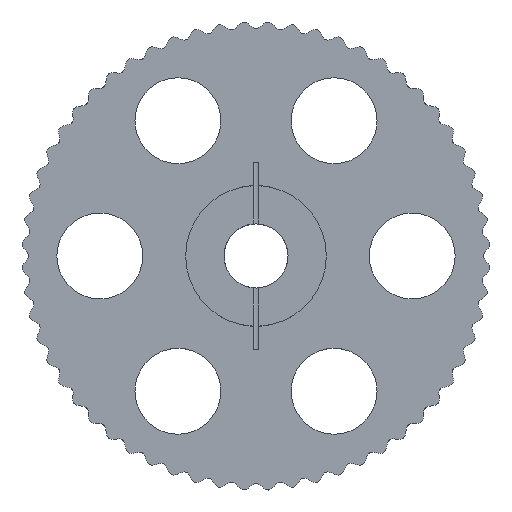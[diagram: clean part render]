
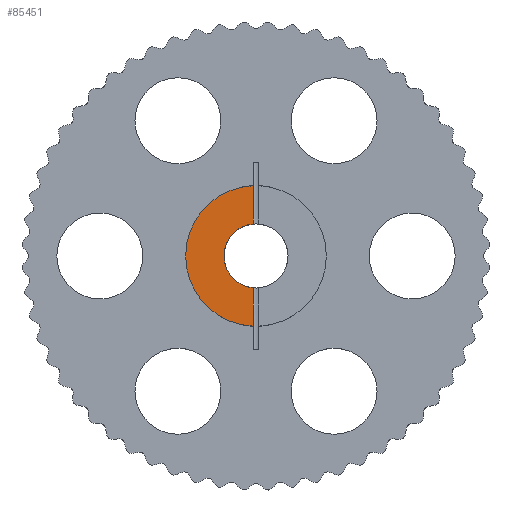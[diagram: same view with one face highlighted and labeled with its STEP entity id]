
A CAD part, top view. The second image highlights one B-rep face of the part: STEP entity #85451.
In plain terms, the highlighted planar face has unit normal (0, 0, 1).
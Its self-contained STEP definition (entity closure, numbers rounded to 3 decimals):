
#84559 = CYLINDRICAL_SURFACE('',#84560,1.25);
#84560 = AXIS2_PLACEMENT_3D('',#84561,#84562,#84563);
#84561 = CARTESIAN_POINT('',(0.,12.,2.7));
#84562 = DIRECTION('',(0.,-1.,0.));
#84563 = DIRECTION('',(1.,0.,0.));
#84637 = CYLINDRICAL_SURFACE('',#84638,9.);
#84638 = AXIS2_PLACEMENT_3D('',#84639,#84640,#84641);
#84639 = CARTESIAN_POINT('',(0.,0.,1.5));
#84640 = DIRECTION('',(0.,0.,1.));
#84641 = DIRECTION('',(1.,0.,-0.));
#84665 = CYLINDRICAL_SURFACE('',#84666,1.25);
#84666 = AXIS2_PLACEMENT_3D('',#84667,#84668,#84669);
#84667 = CARTESIAN_POINT('',(0.,12.,2.7));
#84668 = DIRECTION('',(0.,-1.,0.));
#84669 = DIRECTION('',(1.,0.,0.));
#85076 = VERTEX_POINT('',#85077);
#85077 = CARTESIAN_POINT('',(-0.35,4.085,3.9));
#85232 = CYLINDRICAL_SURFACE('',#85233,4.1);
#85233 = AXIS2_PLACEMENT_3D('',#85234,#85235,#85236);
#85234 = CARTESIAN_POINT('',(0.,0.,-5.));
#85235 = DIRECTION('',(0.,0.,1.));
#85236 = DIRECTION('',(1.,0.,-0.));
#85332 = EDGE_CURVE('',#85333,#85076,#85335,.T.);
#85333 = VERTEX_POINT('',#85334);
#85334 = CARTESIAN_POINT('',(-0.35,8.993,3.9));
#85335 = SURFACE_CURVE('',#85336,(#85340,#85346),.PCURVE_S1.);
#85336 = LINE('',#85337,#85338);
#85337 = CARTESIAN_POINT('',(-0.35,12.,3.9));
#85338 = VECTOR('',#85339,1.);
#85339 = DIRECTION('',(0.,-1.,0.));
#85340 = PCURVE('',#84665,#85341);
#85341 = DEFINITIONAL_REPRESENTATION('',(#85342),#85345);
#85342 = B_SPLINE_CURVE_WITH_KNOTS('',1,(#85343,#85344),.UNSPECIFIED.,
  .F.,.F.,(2,2),(3.007,7.915),
  .PIECEWISE_BEZIER_KNOTS.);
#85343 = CARTESIAN_POINT('',(1.855,3.007));
#85344 = CARTESIAN_POINT('',(1.855,7.915));
#85345 = ( GEOMETRIC_REPRESENTATION_CONTEXT(2) 
PARAMETRIC_REPRESENTATION_CONTEXT() REPRESENTATION_CONTEXT('2D SPACE',''
  ) );
#85346 = PCURVE('',#85347,#85352);
#85347 = PLANE('',#85348);
#85348 = AXIS2_PLACEMENT_3D('',#85349,#85350,#85351);
#85349 = CARTESIAN_POINT('',(0.,0.,3.9));
#85350 = DIRECTION('',(0.,0.,1.));
#85351 = DIRECTION('',(1.,0.,-0.));
#85352 = DEFINITIONAL_REPRESENTATION('',(#85353),#85357);
#85353 = LINE('',#85354,#85355);
#85354 = CARTESIAN_POINT('',(-0.35,12.));
#85355 = VECTOR('',#85356,1.);
#85356 = DIRECTION('',(0.,-1.));
#85357 = ( GEOMETRIC_REPRESENTATION_CONTEXT(2) 
PARAMETRIC_REPRESENTATION_CONTEXT() REPRESENTATION_CONTEXT('2D SPACE',''
  ) );
#85451 = ADVANCED_FACE('',(#85452),#85347,.T.);
#85452 = FACE_BOUND('',#85453,.T.);
#85453 = EDGE_LOOP('',(#85454,#85455,#85479,#85501));
#85454 = ORIENTED_EDGE('',*,*,#85332,.F.);
#85455 = ORIENTED_EDGE('',*,*,#85456,.T.);
#85456 = EDGE_CURVE('',#85333,#85457,#85459,.T.);
#85457 = VERTEX_POINT('',#85458);
#85458 = CARTESIAN_POINT('',(-0.35,-8.993,3.9));
#85459 = SURFACE_CURVE('',#85460,(#85465,#85472),.PCURVE_S1.);
#85460 = CIRCLE('',#85461,9.);
#85461 = AXIS2_PLACEMENT_3D('',#85462,#85463,#85464);
#85462 = CARTESIAN_POINT('',(0.,0.,3.9));
#85463 = DIRECTION('',(0.,0.,1.));
#85464 = DIRECTION('',(1.,0.,-0.));
#85465 = PCURVE('',#85347,#85466);
#85466 = DEFINITIONAL_REPRESENTATION('',(#85467),#85471);
#85467 = CIRCLE('',#85468,9.);
#85468 = AXIS2_PLACEMENT_2D('',#85469,#85470);
#85469 = CARTESIAN_POINT('',(0.,0.));
#85470 = DIRECTION('',(1.,0.));
#85471 = ( GEOMETRIC_REPRESENTATION_CONTEXT(2) 
PARAMETRIC_REPRESENTATION_CONTEXT() REPRESENTATION_CONTEXT('2D SPACE',''
  ) );
#85472 = PCURVE('',#84637,#85473);
#85473 = DEFINITIONAL_REPRESENTATION('',(#85474),#85478);
#85474 = LINE('',#85475,#85476);
#85475 = CARTESIAN_POINT('',(0.,2.4));
#85476 = VECTOR('',#85477,1.);
#85477 = DIRECTION('',(1.,0.));
#85478 = ( GEOMETRIC_REPRESENTATION_CONTEXT(2) 
PARAMETRIC_REPRESENTATION_CONTEXT() REPRESENTATION_CONTEXT('2D SPACE',''
  ) );
#85479 = ORIENTED_EDGE('',*,*,#85480,.F.);
#85480 = EDGE_CURVE('',#85481,#85457,#85483,.T.);
#85481 = VERTEX_POINT('',#85482);
#85482 = CARTESIAN_POINT('',(-0.35,-4.085,3.9));
#85483 = SURFACE_CURVE('',#85484,(#85488,#85495),.PCURVE_S1.);
#85484 = LINE('',#85485,#85486);
#85485 = CARTESIAN_POINT('',(-0.35,12.,3.9));
#85486 = VECTOR('',#85487,1.);
#85487 = DIRECTION('',(0.,-1.,0.));
#85488 = PCURVE('',#85347,#85489);
#85489 = DEFINITIONAL_REPRESENTATION('',(#85490),#85494);
#85490 = LINE('',#85491,#85492);
#85491 = CARTESIAN_POINT('',(-0.35,12.));
#85492 = VECTOR('',#85493,1.);
#85493 = DIRECTION('',(0.,-1.));
#85494 = ( GEOMETRIC_REPRESENTATION_CONTEXT(2) 
PARAMETRIC_REPRESENTATION_CONTEXT() REPRESENTATION_CONTEXT('2D SPACE',''
  ) );
#85495 = PCURVE('',#84559,#85496);
#85496 = DEFINITIONAL_REPRESENTATION('',(#85497),#85500);
#85497 = B_SPLINE_CURVE_WITH_KNOTS('',1,(#85498,#85499),.UNSPECIFIED.,
  .F.,.F.,(2,2),(16.085,20.993),
  .PIECEWISE_BEZIER_KNOTS.);
#85498 = CARTESIAN_POINT('',(1.855,16.085));
#85499 = CARTESIAN_POINT('',(1.855,20.993));
#85500 = ( GEOMETRIC_REPRESENTATION_CONTEXT(2) 
PARAMETRIC_REPRESENTATION_CONTEXT() REPRESENTATION_CONTEXT('2D SPACE',''
  ) );
#85501 = ORIENTED_EDGE('',*,*,#85502,.F.);
#85502 = EDGE_CURVE('',#85076,#85481,#85503,.T.);
#85503 = SURFACE_CURVE('',#85504,(#85509,#85516),.PCURVE_S1.);
#85504 = CIRCLE('',#85505,4.1);
#85505 = AXIS2_PLACEMENT_3D('',#85506,#85507,#85508);
#85506 = CARTESIAN_POINT('',(0.,0.,3.9));
#85507 = DIRECTION('',(0.,0.,1.));
#85508 = DIRECTION('',(1.,0.,-0.));
#85509 = PCURVE('',#85347,#85510);
#85510 = DEFINITIONAL_REPRESENTATION('',(#85511),#85515);
#85511 = CIRCLE('',#85512,4.1);
#85512 = AXIS2_PLACEMENT_2D('',#85513,#85514);
#85513 = CARTESIAN_POINT('',(0.,0.));
#85514 = DIRECTION('',(1.,0.));
#85515 = ( GEOMETRIC_REPRESENTATION_CONTEXT(2) 
PARAMETRIC_REPRESENTATION_CONTEXT() REPRESENTATION_CONTEXT('2D SPACE',''
  ) );
#85516 = PCURVE('',#85232,#85517);
#85517 = DEFINITIONAL_REPRESENTATION('',(#85518),#85522);
#85518 = LINE('',#85519,#85520);
#85519 = CARTESIAN_POINT('',(0.,8.9));
#85520 = VECTOR('',#85521,1.);
#85521 = DIRECTION('',(1.,0.));
#85522 = ( GEOMETRIC_REPRESENTATION_CONTEXT(2) 
PARAMETRIC_REPRESENTATION_CONTEXT() REPRESENTATION_CONTEXT('2D SPACE',''
  ) );
